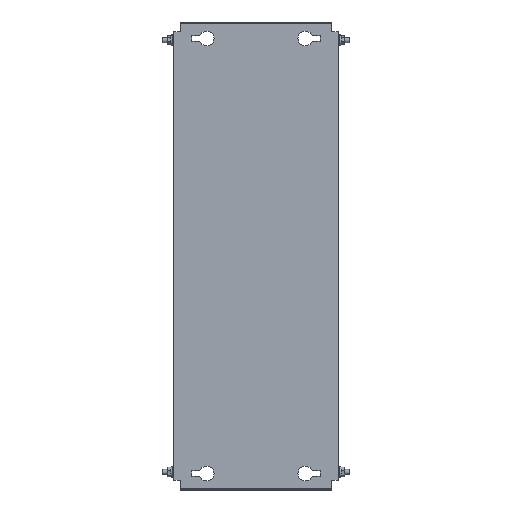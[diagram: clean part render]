
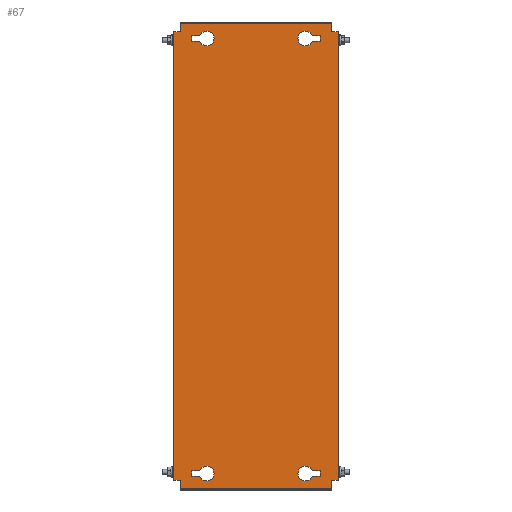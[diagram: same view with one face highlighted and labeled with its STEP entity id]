
A CAD part, top view. The second image highlights one B-rep face of the part: STEP entity #67.
In plain terms, the highlighted planar face has unit normal (0, 0, 1).
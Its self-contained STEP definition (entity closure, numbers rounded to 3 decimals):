
#67 = ADVANCED_FACE('',(#68,#103,#138,#300,#335),#370,.T.);
#68 = FACE_BOUND('',#69,.T.);
#69 = EDGE_LOOP('',(#70,#80,#88,#96));
#70 = ORIENTED_EDGE('',*,*,#71,.T.);
#71 = EDGE_CURVE('',#72,#74,#76,.T.);
#72 = VERTEX_POINT('',#73);
#73 = CARTESIAN_POINT('',(68.393,267.75,2.));
#74 = VERTEX_POINT('',#75);
#75 = CARTESIAN_POINT('',(78.,267.75,2.));
#76 = LINE('',#77,#78);
#77 = CARTESIAN_POINT('',(77.,267.75,2.));
#78 = VECTOR('',#79,1.);
#79 = DIRECTION('',(1.,0.,0.));
#80 = ORIENTED_EDGE('',*,*,#81,.T.);
#81 = EDGE_CURVE('',#74,#82,#84,.T.);
#82 = VERTEX_POINT('',#83);
#83 = CARTESIAN_POINT('',(78.,261.25,2.));
#84 = LINE('',#85,#86);
#85 = CARTESIAN_POINT('',(78.,267.75,2.));
#86 = VECTOR('',#87,1.);
#87 = DIRECTION('',(0.,-1.,0.));
#88 = ORIENTED_EDGE('',*,*,#89,.T.);
#89 = EDGE_CURVE('',#82,#90,#92,.T.);
#90 = VERTEX_POINT('',#91);
#91 = CARTESIAN_POINT('',(68.393,261.25,2.));
#92 = LINE('',#93,#94);
#93 = CARTESIAN_POINT('',(77.,261.25,2.));
#94 = VECTOR('',#95,1.);
#95 = DIRECTION('',(-1.,0.,0.));
#96 = ORIENTED_EDGE('',*,*,#97,.T.);
#97 = EDGE_CURVE('',#90,#72,#98,.T.);
#98 = CIRCLE('',#99,9.);
#99 = AXIS2_PLACEMENT_3D('',#100,#101,#102);
#100 = CARTESIAN_POINT('',(60.,264.5,2.));
#101 = DIRECTION('',(0.,0.,-1.));
#102 = DIRECTION('',(1.,0.,0.));
#103 = FACE_BOUND('',#104,.T.);
#104 = EDGE_LOOP('',(#105,#115,#123,#131));
#105 = ORIENTED_EDGE('',*,*,#106,.T.);
#106 = EDGE_CURVE('',#107,#109,#111,.T.);
#107 = VERTEX_POINT('',#108);
#108 = CARTESIAN_POINT('',(-68.393,-267.75,2.));
#109 = VERTEX_POINT('',#110);
#110 = CARTESIAN_POINT('',(-78.,-267.75,2.));
#111 = LINE('',#112,#113);
#112 = CARTESIAN_POINT('',(-77.,-267.75,2.));
#113 = VECTOR('',#114,1.);
#114 = DIRECTION('',(-1.,0.,0.));
#115 = ORIENTED_EDGE('',*,*,#116,.T.);
#116 = EDGE_CURVE('',#109,#117,#119,.T.);
#117 = VERTEX_POINT('',#118);
#118 = CARTESIAN_POINT('',(-78.,-261.25,2.));
#119 = LINE('',#120,#121);
#120 = CARTESIAN_POINT('',(-78.,-267.75,2.));
#121 = VECTOR('',#122,1.);
#122 = DIRECTION('',(0.,1.,0.));
#123 = ORIENTED_EDGE('',*,*,#124,.T.);
#124 = EDGE_CURVE('',#117,#125,#127,.T.);
#125 = VERTEX_POINT('',#126);
#126 = CARTESIAN_POINT('',(-68.393,-261.25,2.));
#127 = LINE('',#128,#129);
#128 = CARTESIAN_POINT('',(-77.,-261.25,2.));
#129 = VECTOR('',#130,1.);
#130 = DIRECTION('',(1.,0.,-0.));
#131 = ORIENTED_EDGE('',*,*,#132,.T.);
#132 = EDGE_CURVE('',#125,#107,#133,.T.);
#133 = CIRCLE('',#134,9.);
#134 = AXIS2_PLACEMENT_3D('',#135,#136,#137);
#135 = CARTESIAN_POINT('',(-60.,-264.5,2.));
#136 = DIRECTION('',(0.,0.,-1.));
#137 = DIRECTION('',(-1.,0.,0.));
#138 = FACE_BOUND('',#139,.T.);
#139 = EDGE_LOOP('',(#140,#150,#158,#166,#174,#182,#190,#198,#206,#214,
    #222,#230,#238,#246,#254,#262,#270,#278,#286,#294));
#140 = ORIENTED_EDGE('',*,*,#141,.F.);
#141 = EDGE_CURVE('',#142,#144,#146,.T.);
#142 = VERTEX_POINT('',#143);
#143 = CARTESIAN_POINT('',(-97.4,272.5,2.));
#144 = VERTEX_POINT('',#145);
#145 = CARTESIAN_POINT('',(-92.,272.5,2.));
#146 = LINE('',#147,#148);
#147 = CARTESIAN_POINT('',(-98.,272.5,2.));
#148 = VECTOR('',#149,1.);
#149 = DIRECTION('',(1.,0.,-0.));
#150 = ORIENTED_EDGE('',*,*,#151,.T.);
#151 = EDGE_CURVE('',#142,#152,#154,.T.);
#152 = VERTEX_POINT('',#153);
#153 = CARTESIAN_POINT('',(-100.,272.5,2.));
#154 = LINE('',#155,#156);
#155 = CARTESIAN_POINT('',(-97.4,272.5,2.));
#156 = VECTOR('',#157,1.);
#157 = DIRECTION('',(-1.,0.,0.));
#158 = ORIENTED_EDGE('',*,*,#159,.F.);
#159 = EDGE_CURVE('',#160,#152,#162,.T.);
#160 = VERTEX_POINT('',#161);
#161 = CARTESIAN_POINT('',(-100.,-272.5,2.));
#162 = LINE('',#163,#164);
#163 = CARTESIAN_POINT('',(-100.,-282.5,2.));
#164 = VECTOR('',#165,1.);
#165 = DIRECTION('',(0.,1.,-0.));
#166 = ORIENTED_EDGE('',*,*,#167,.F.);
#167 = EDGE_CURVE('',#168,#160,#170,.T.);
#168 = VERTEX_POINT('',#169);
#169 = CARTESIAN_POINT('',(-97.4,-272.5,2.));
#170 = LINE('',#171,#172);
#171 = CARTESIAN_POINT('',(-92.,-272.5,2.));
#172 = VECTOR('',#173,1.);
#173 = DIRECTION('',(-1.,-0.,-0.));
#174 = ORIENTED_EDGE('',*,*,#175,.T.);
#175 = EDGE_CURVE('',#168,#176,#178,.T.);
#176 = VERTEX_POINT('',#177);
#177 = CARTESIAN_POINT('',(-92.,-272.5,2.));
#178 = LINE('',#179,#180);
#179 = CARTESIAN_POINT('',(-98.,-272.5,2.));
#180 = VECTOR('',#181,1.);
#181 = DIRECTION('',(1.,0.,-0.));
#182 = ORIENTED_EDGE('',*,*,#183,.T.);
#183 = EDGE_CURVE('',#176,#184,#186,.T.);
#184 = VERTEX_POINT('',#185);
#185 = CARTESIAN_POINT('',(-92.,-281.9,2.));
#186 = LINE('',#187,#188);
#187 = CARTESIAN_POINT('',(-92.,282.5,2.));
#188 = VECTOR('',#189,1.);
#189 = DIRECTION('',(0.,-1.,0.));
#190 = ORIENTED_EDGE('',*,*,#191,.T.);
#191 = EDGE_CURVE('',#184,#192,#194,.T.);
#192 = VERTEX_POINT('',#193);
#193 = CARTESIAN_POINT('',(-92.,-282.5,2.));
#194 = LINE('',#195,#196);
#195 = CARTESIAN_POINT('',(-92.,-281.9,2.));
#196 = VECTOR('',#197,1.);
#197 = DIRECTION('',(-0.,-1.,-0.));
#198 = ORIENTED_EDGE('',*,*,#199,.T.);
#199 = EDGE_CURVE('',#192,#200,#202,.T.);
#200 = VERTEX_POINT('',#201);
#201 = CARTESIAN_POINT('',(92.,-282.5,2.));
#202 = LINE('',#203,#204);
#203 = CARTESIAN_POINT('',(92.,-282.5,2.));
#204 = VECTOR('',#205,1.);
#205 = DIRECTION('',(1.,0.,0.));
#206 = ORIENTED_EDGE('',*,*,#207,.F.);
#207 = EDGE_CURVE('',#208,#200,#210,.T.);
#208 = VERTEX_POINT('',#209);
#209 = CARTESIAN_POINT('',(92.,-281.9,2.));
#210 = LINE('',#211,#212);
#211 = CARTESIAN_POINT('',(92.,-282.5,2.));
#212 = VECTOR('',#213,1.);
#213 = DIRECTION('',(0.,-1.,0.));
#214 = ORIENTED_EDGE('',*,*,#215,.T.);
#215 = EDGE_CURVE('',#208,#216,#218,.T.);
#216 = VERTEX_POINT('',#217);
#217 = CARTESIAN_POINT('',(92.,-272.5,2.));
#218 = LINE('',#219,#220);
#219 = CARTESIAN_POINT('',(92.,282.5,2.));
#220 = VECTOR('',#221,1.);
#221 = DIRECTION('',(0.,1.,-0.));
#222 = ORIENTED_EDGE('',*,*,#223,.F.);
#223 = EDGE_CURVE('',#224,#216,#226,.T.);
#224 = VERTEX_POINT('',#225);
#225 = CARTESIAN_POINT('',(97.4,-272.5,2.));
#226 = LINE('',#227,#228);
#227 = CARTESIAN_POINT('',(98.,-272.5,2.));
#228 = VECTOR('',#229,1.);
#229 = DIRECTION('',(-1.,0.,-0.));
#230 = ORIENTED_EDGE('',*,*,#231,.T.);
#231 = EDGE_CURVE('',#224,#232,#234,.T.);
#232 = VERTEX_POINT('',#233);
#233 = CARTESIAN_POINT('',(100.,-272.5,2.));
#234 = LINE('',#235,#236);
#235 = CARTESIAN_POINT('',(97.4,-272.5,2.));
#236 = VECTOR('',#237,1.);
#237 = DIRECTION('',(1.,-0.,0.));
#238 = ORIENTED_EDGE('',*,*,#239,.F.);
#239 = EDGE_CURVE('',#240,#232,#242,.T.);
#240 = VERTEX_POINT('',#241);
#241 = CARTESIAN_POINT('',(100.,272.5,2.));
#242 = LINE('',#243,#244);
#243 = CARTESIAN_POINT('',(100.,-282.5,2.));
#244 = VECTOR('',#245,1.);
#245 = DIRECTION('',(0.,-1.,-0.));
#246 = ORIENTED_EDGE('',*,*,#247,.F.);
#247 = EDGE_CURVE('',#248,#240,#250,.T.);
#248 = VERTEX_POINT('',#249);
#249 = CARTESIAN_POINT('',(97.4,272.5,2.));
#250 = LINE('',#251,#252);
#251 = CARTESIAN_POINT('',(-92.,272.5,2.));
#252 = VECTOR('',#253,1.);
#253 = DIRECTION('',(1.,-0.,0.));
#254 = ORIENTED_EDGE('',*,*,#255,.T.);
#255 = EDGE_CURVE('',#248,#256,#258,.T.);
#256 = VERTEX_POINT('',#257);
#257 = CARTESIAN_POINT('',(92.,272.5,2.));
#258 = LINE('',#259,#260);
#259 = CARTESIAN_POINT('',(98.,272.5,2.));
#260 = VECTOR('',#261,1.);
#261 = DIRECTION('',(-1.,0.,-0.));
#262 = ORIENTED_EDGE('',*,*,#263,.T.);
#263 = EDGE_CURVE('',#256,#264,#266,.T.);
#264 = VERTEX_POINT('',#265);
#265 = CARTESIAN_POINT('',(92.,281.9,2.));
#266 = LINE('',#267,#268);
#267 = CARTESIAN_POINT('',(92.,282.5,2.));
#268 = VECTOR('',#269,1.);
#269 = DIRECTION('',(0.,1.,-0.));
#270 = ORIENTED_EDGE('',*,*,#271,.T.);
#271 = EDGE_CURVE('',#264,#272,#274,.T.);
#272 = VERTEX_POINT('',#273);
#273 = CARTESIAN_POINT('',(92.,282.5,2.));
#274 = LINE('',#275,#276);
#275 = CARTESIAN_POINT('',(92.,281.9,2.));
#276 = VECTOR('',#277,1.);
#277 = DIRECTION('',(-0.,1.,-0.));
#278 = ORIENTED_EDGE('',*,*,#279,.T.);
#279 = EDGE_CURVE('',#272,#280,#282,.T.);
#280 = VERTEX_POINT('',#281);
#281 = CARTESIAN_POINT('',(-92.,282.5,2.));
#282 = LINE('',#283,#284);
#283 = CARTESIAN_POINT('',(-92.,282.5,2.));
#284 = VECTOR('',#285,1.);
#285 = DIRECTION('',(-1.,0.,0.));
#286 = ORIENTED_EDGE('',*,*,#287,.F.);
#287 = EDGE_CURVE('',#288,#280,#290,.T.);
#288 = VERTEX_POINT('',#289);
#289 = CARTESIAN_POINT('',(-92.,281.9,2.));
#290 = LINE('',#291,#292);
#291 = CARTESIAN_POINT('',(-92.,-282.5,2.));
#292 = VECTOR('',#293,1.);
#293 = DIRECTION('',(0.,1.,-0.));
#294 = ORIENTED_EDGE('',*,*,#295,.T.);
#295 = EDGE_CURVE('',#288,#144,#296,.T.);
#296 = LINE('',#297,#298);
#297 = CARTESIAN_POINT('',(-92.,282.5,2.));
#298 = VECTOR('',#299,1.);
#299 = DIRECTION('',(0.,-1.,0.));
#300 = FACE_BOUND('',#301,.T.);
#301 = EDGE_LOOP('',(#302,#312,#320,#328));
#302 = ORIENTED_EDGE('',*,*,#303,.F.);
#303 = EDGE_CURVE('',#304,#306,#308,.T.);
#304 = VERTEX_POINT('',#305);
#305 = CARTESIAN_POINT('',(78.,-261.25,2.));
#306 = VERTEX_POINT('',#307);
#307 = CARTESIAN_POINT('',(68.393,-261.25,2.));
#308 = LINE('',#309,#310);
#309 = CARTESIAN_POINT('',(68.393,-261.25,2.));
#310 = VECTOR('',#311,1.);
#311 = DIRECTION('',(-1.,0.,0.));
#312 = ORIENTED_EDGE('',*,*,#313,.F.);
#313 = EDGE_CURVE('',#314,#304,#316,.T.);
#314 = VERTEX_POINT('',#315);
#315 = CARTESIAN_POINT('',(78.,-267.75,2.));
#316 = LINE('',#317,#318);
#317 = CARTESIAN_POINT('',(78.,-261.25,2.));
#318 = VECTOR('',#319,1.);
#319 = DIRECTION('',(0.,1.,0.));
#320 = ORIENTED_EDGE('',*,*,#321,.F.);
#321 = EDGE_CURVE('',#322,#314,#324,.T.);
#322 = VERTEX_POINT('',#323);
#323 = CARTESIAN_POINT('',(68.393,-267.75,2.));
#324 = LINE('',#325,#326);
#325 = CARTESIAN_POINT('',(77.,-267.75,2.));
#326 = VECTOR('',#327,1.);
#327 = DIRECTION('',(1.,0.,0.));
#328 = ORIENTED_EDGE('',*,*,#329,.F.);
#329 = EDGE_CURVE('',#306,#322,#330,.T.);
#330 = CIRCLE('',#331,9.);
#331 = AXIS2_PLACEMENT_3D('',#332,#333,#334);
#332 = CARTESIAN_POINT('',(60.,-264.5,2.));
#333 = DIRECTION('',(0.,-0.,1.));
#334 = DIRECTION('',(1.,0.,0.));
#335 = FACE_BOUND('',#336,.T.);
#336 = EDGE_LOOP('',(#337,#347,#355,#363));
#337 = ORIENTED_EDGE('',*,*,#338,.F.);
#338 = EDGE_CURVE('',#339,#341,#343,.T.);
#339 = VERTEX_POINT('',#340);
#340 = CARTESIAN_POINT('',(-78.,261.25,2.));
#341 = VERTEX_POINT('',#342);
#342 = CARTESIAN_POINT('',(-68.393,261.25,2.));
#343 = LINE('',#344,#345);
#344 = CARTESIAN_POINT('',(-68.393,261.25,2.));
#345 = VECTOR('',#346,1.);
#346 = DIRECTION('',(1.,0.,0.));
#347 = ORIENTED_EDGE('',*,*,#348,.F.);
#348 = EDGE_CURVE('',#349,#339,#351,.T.);
#349 = VERTEX_POINT('',#350);
#350 = CARTESIAN_POINT('',(-78.,267.75,2.));
#351 = LINE('',#352,#353);
#352 = CARTESIAN_POINT('',(-78.,261.25,2.));
#353 = VECTOR('',#354,1.);
#354 = DIRECTION('',(0.,-1.,0.));
#355 = ORIENTED_EDGE('',*,*,#356,.F.);
#356 = EDGE_CURVE('',#357,#349,#359,.T.);
#357 = VERTEX_POINT('',#358);
#358 = CARTESIAN_POINT('',(-68.393,267.75,2.));
#359 = LINE('',#360,#361);
#360 = CARTESIAN_POINT('',(-77.,267.75,2.));
#361 = VECTOR('',#362,1.);
#362 = DIRECTION('',(-1.,0.,0.));
#363 = ORIENTED_EDGE('',*,*,#364,.F.);
#364 = EDGE_CURVE('',#341,#357,#365,.T.);
#365 = CIRCLE('',#366,9.);
#366 = AXIS2_PLACEMENT_3D('',#367,#368,#369);
#367 = CARTESIAN_POINT('',(-60.,264.5,2.));
#368 = DIRECTION('',(0.,-0.,1.));
#369 = DIRECTION('',(-1.,0.,0.));
#370 = PLANE('',#371);
#371 = AXIS2_PLACEMENT_3D('',#372,#373,#374);
#372 = CARTESIAN_POINT('',(-92.,-282.5,2.));
#373 = DIRECTION('',(-0.,0.,1.));
#374 = DIRECTION('',(1.,0.,0.));
